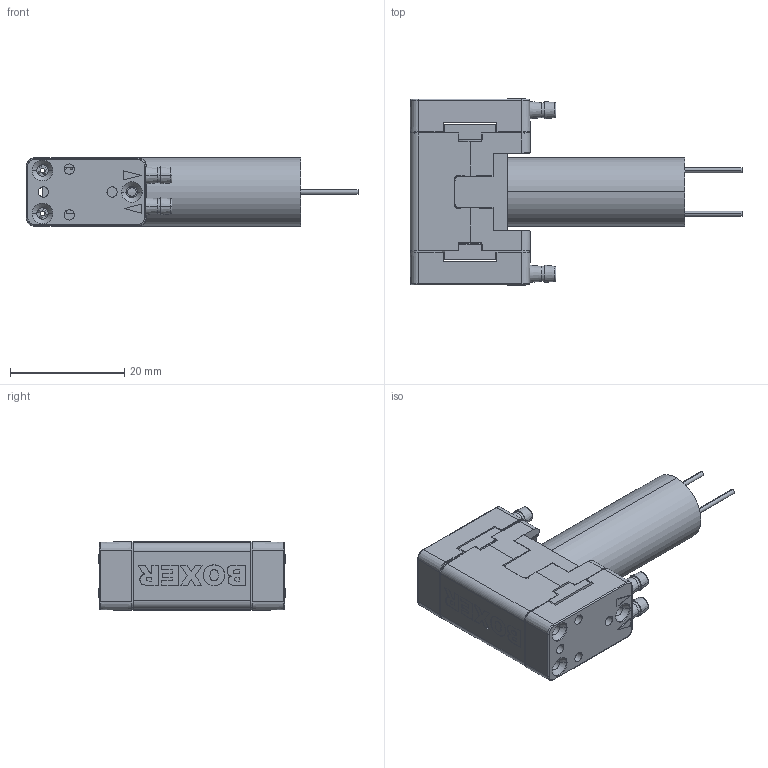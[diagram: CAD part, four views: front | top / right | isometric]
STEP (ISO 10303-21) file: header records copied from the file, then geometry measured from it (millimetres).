
FILE_DESCRIPTION (( 'STEP AP203' ), '1' );
FILE_NAME ('20KD coreless.STEP', '2021-05-23T14:21:48', ( '' ), ( '' ), 'SwSTEP 2.0', 'SolidWorks 2020', '' );
FILE_SCHEMA (( 'CONFIG_CONTROL_DESIGN' ));
Length unit declared in the file: millimetre
Products named in the file (1): 20KD coreless
Bounding box: 58 x 32.6 x 12 mm (x, y, z)
Surface area: 5679.5 mm2 (no closed solid volume)
Topology: 0 solids, 12 shells, 399 faces, 1401 edges, 1000 vertices
Faces by surface type: plane 177, cylinder 100, cone 74, bspline 48
Entity records: 17946 total; most frequent: CARTESIAN_POINT 6312, DIRECTION 2270, ORIENTED_EDGE 2245, EDGE_CURVE 1401, VERTEX_POINT 1000, AXIS2_PLACEMENT_3D 765, VECTOR 740, LINE 740
